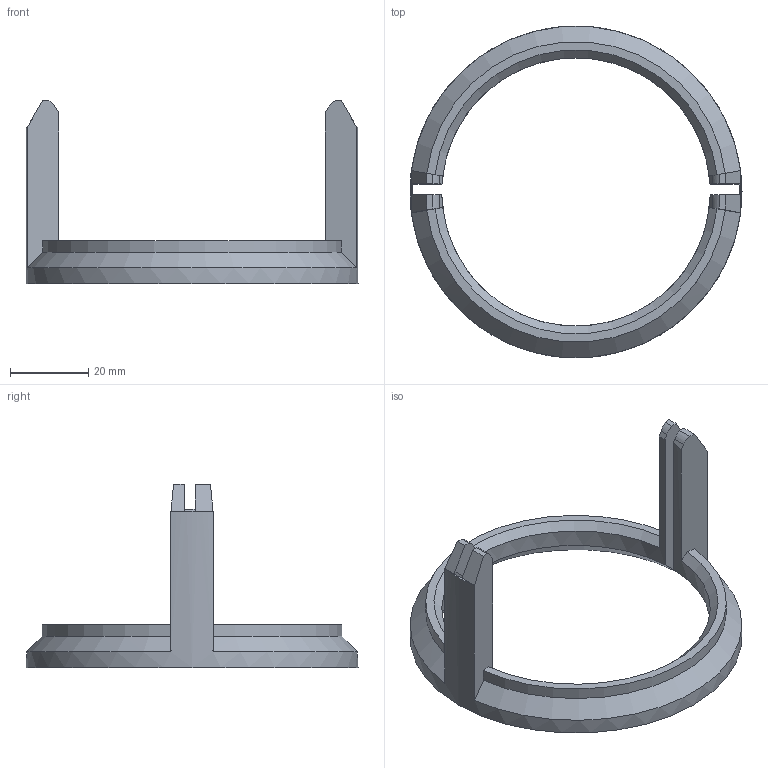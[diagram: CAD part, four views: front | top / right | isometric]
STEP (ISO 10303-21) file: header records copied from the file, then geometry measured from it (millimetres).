
FILE_DESCRIPTION(/* description */ (''),/* implementation_level */ '2;1');
FILE_NAME(/* name */ 'F:/F-Shared-Ryzen7 - PROD/F-OWL-PLANES/F-16 Falcon 64mm/STLs - REAL FOLDER/OWLplane OWL F-16 Falcon 64mm v1.2/OWL F-16 Falcon 64mm - SUPPORT ver 1.1/F-16 Falcon 64mm EDF BRACKETS/STEP/EDF-64 FMS 64mm - Bracket with Lip.step',/* time_stamp */ '2022-10-14T15:48:33+07:00',/* author */ (''),/* organization */ (''),/* preprocessor_version */ 'ST-DEVELOPER v19',/* originating_system */ 'Autodesk Translation Framework v11.7.0.108',/* authorisation */ '');
FILE_SCHEMA (('AUTOMOTIVE_DESIGN { 1 0 10303 214 3 1 1 }'));
Length unit declared in the file: millimetre
Products named in the file (1): EDF-64 FMS 64mm - Bracket with Lip
Bounding box: 85 x 85 x 46.88 mm (x, y, z)
Volume: 17477.4 mm3; surface area: 11444.9 mm2
Topology: 1 solids, 1 shells, 40 faces, 113 edges, 74 vertices
Faces by surface type: plane 17, bspline 10, cylinder 7, cone 6
Full cylindrical faces by diameter (mm): 85 x1
Entity records: 1594 total; most frequent: CARTESIAN_POINT 632, ORIENTED_EDGE 226, DIRECTION 153, EDGE_CURVE 113, VERTEX_POINT 74, LINE 51, VECTOR 51, AXIS2_PLACEMENT_3D 51
